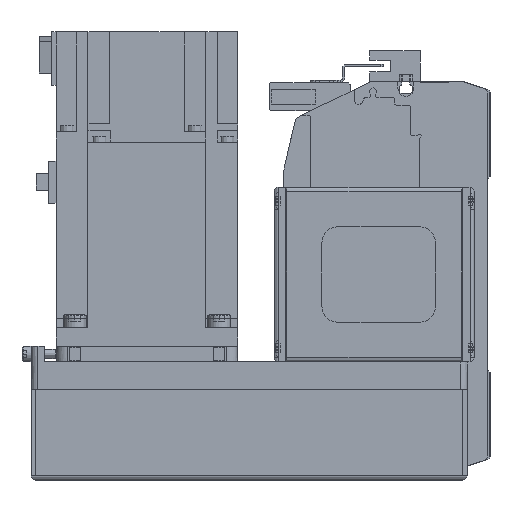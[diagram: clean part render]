
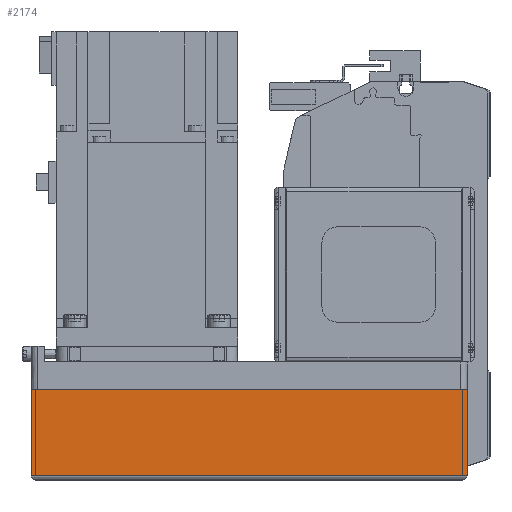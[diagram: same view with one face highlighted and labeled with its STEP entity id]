
A CAD part, left-side view. The second image highlights one B-rep face of the part: STEP entity #2174.
In plain terms, the highlighted planar face has unit normal (-1, 0, 0) as drawn and (0, -1, 0) by its records, which use the part's own axes.
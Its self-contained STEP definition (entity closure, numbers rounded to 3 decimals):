
#2174 = ADVANCED_FACE( '', ( #5159 ), #5160, .T. );
#5159 = FACE_OUTER_BOUND( '', #9087, .T. );
#5160 = PLANE( '', #9088 );
#9087 = EDGE_LOOP( '', ( #15302, #15303, #15304, #15305 ) );
#9088 = AXIS2_PLACEMENT_3D( '', #15306, #15307, #15308 );
#15302 = ORIENTED_EDGE( '', *, *, #22696, .F. );
#15303 = ORIENTED_EDGE( '', *, *, #23896, .F. );
#15304 = ORIENTED_EDGE( '', *, *, #23897, .T. );
#15305 = ORIENTED_EDGE( '', *, *, #23571, .T. );
#15306 = CARTESIAN_POINT( '', ( -192., -40., -12.1 ) );
#15307 = DIRECTION( '', ( 0., -1., 0. ) );
#15308 = DIRECTION( '', ( 0., 0., -1. ) );
#22696 = EDGE_CURVE( '', #27326, #27327, #27328, .T. );
#23571 = EDGE_CURVE( '', #28754, #27327, #28759, .T. );
#23896 = EDGE_CURVE( '', #29118, #27326, #29265, .T. );
#23897 = EDGE_CURVE( '', #29118, #28754, #29266, .T. );
#27326 = VERTEX_POINT( '', #34047 );
#27327 = VERTEX_POINT( '', #34048 );
#27328 = LINE( '', #34049, #34050 );
#28754 = VERTEX_POINT( '', #36833 );
#28759 = LINE( '', #36839, #36840 );
#29118 = VERTEX_POINT( '', #37316 );
#29265 = LINE( '', #37548, #37549 );
#29266 = LINE( '', #37550, #37551 );
#34047 = CARTESIAN_POINT( '', ( 0., -40., -12.1 ) );
#34048 = CARTESIAN_POINT( '', ( 0., -40., -50. ) );
#34049 = CARTESIAN_POINT( '', ( 0., -40., -12.1 ) );
#34050 = VECTOR( '', #42238, 1000. );
#36833 = CARTESIAN_POINT( '', ( -192., -40., -50. ) );
#36839 = CARTESIAN_POINT( '', ( -192., -40., -50. ) );
#36840 = VECTOR( '', #43347, 1000. );
#37316 = CARTESIAN_POINT( '', ( -192., -40., -12.1 ) );
#37548 = CARTESIAN_POINT( '', ( -192., -40., -12.1 ) );
#37549 = VECTOR( '', #43798, 1000. );
#37550 = CARTESIAN_POINT( '', ( -192., -40., -12.1 ) );
#37551 = VECTOR( '', #43799, 1000. );
#42238 = DIRECTION( '', ( 0., 0., -1. ) );
#43347 = DIRECTION( '', ( 1., 0., 0. ) );
#43798 = DIRECTION( '', ( 1., 0., 0. ) );
#43799 = DIRECTION( '', ( 0., 0., -1. ) );
